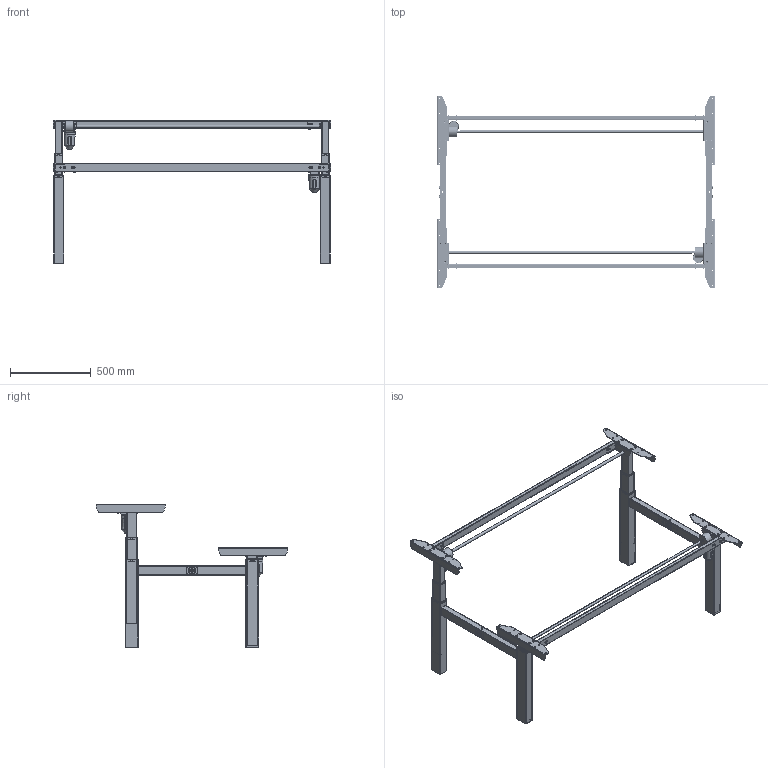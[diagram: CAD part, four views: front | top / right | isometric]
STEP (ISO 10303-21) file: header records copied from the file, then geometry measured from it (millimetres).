
FILE_DESCRIPTION (( 'STEP AP203' ), '1' );
FILE_NAME ('Tech-draw_501-88_XX172.STEP', '2019-09-26T07:12:13', ( '' ), ( '' ), 'SwSTEP 2.0', 'SolidWorks 2018', '' );
FILE_SCHEMA (( 'CONFIG_CONTROL_DESIGN' ));
Length unit declared in the file: millimetre
Products named in the file (38): 342310; 346210_shell view; 341800; 344430_black; 144260_172; 143690_black1; 346190_shell view; 143700_black; 352610; 340760; 149220_501-88 XB172; 347080_black; 346330; 142080_black1; 348920_black; 347590; 143700_black1; 346340; 346910_black; 342310_black; 346250_black1; 346290_shell view; 346260; 346640; 143710_black1; 341220; Tech-draw_501-88_XX172; 142070_black1; 324520_black; 347920_172; 143690_black; 340560; 332570; 347910_172; 341800_black; 306980; 308630; 347360_black
Assembly tree (121 placements, depth 6):
  Tech-draw_501-88_XX172
    149220_501-88 XB172
      347910_172  x2
      143690_black
        143700_black
          143710_black1
            347590
            346260  x2
          346250_black1  x2
          342310_black  x2
          341800_black  x6
          346910_black  x2
        142070_black1
          346290_shell view
          346190_shell view
          346330
          346640
        142080_black1
          346290_shell view
          346210_shell view
          346340
          346640
        344430_black
        324520_black  x2
        341800_black  x3
        341800  x3
        342310_black
        342310
        306980  x2
        347360_black  x2
        347080_black  x2
        352610
      143690_black1
        143700_black1
          143710_black1
            347590
            346260  x2
          346250_black1  x2
          342310_black  x2
          341800_black  x6
          346910_black  x2
        142070_black1
          346290_shell view
          346190_shell view
          346330
          346640
        142080_black1
          346290_shell view
          346210_shell view
          346340
          346640
        344430_black
        324520_black  x2
        341800  x3
        341800_black  x3
        342310
        342310_black
        306980  x2
        347360_black  x2
        347080_black  x2
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Bounding box: 1724.9 x 1190 x 892.65 mm (x, y, z)
Volume: 5471027.7 mm3; surface area: 5652808.5 mm2
Topology: 122 solids, 122 shells, 7870 faces, 20790 edges, 13326 vertices
Faces by surface type: plane 4216, cylinder 2190, bspline 956, torus 246, cone 226, sphere 36
Full cylindrical faces by diameter (mm): 2.8 x4, 3 x4, 4 x24, 4.6 x8, 5 x32, 6 x16, 7 x32, 7.6 x8, 8 x24, 10 x18, 11.9 x4, 12 x2, 13 x4, 15 x4, 16 x4, 18 x6, 20 x2, 24 x4, 37.6 x8, 60 x2
Entity records: 103844 total; most frequent: CARTESIAN_POINT 42385, ORIENTED_EDGE 11892, DIRECTION 10839, EDGE_CURVE 5946, VERTEX_POINT 3872, AXIS2_PLACEMENT_3D 3832, VECTOR 3175, LINE 3175
